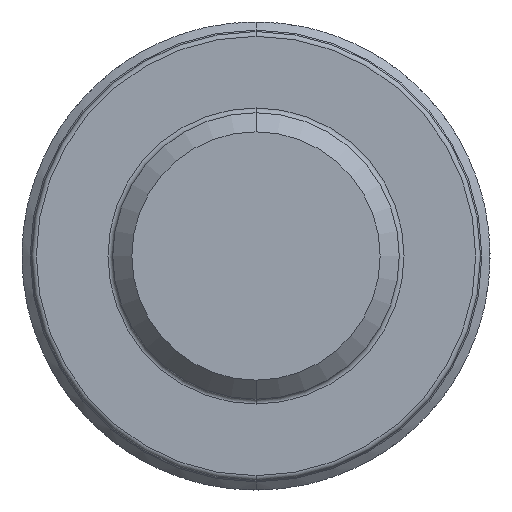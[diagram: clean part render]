
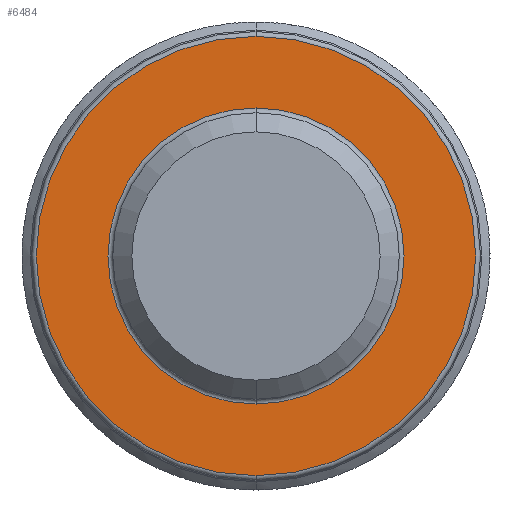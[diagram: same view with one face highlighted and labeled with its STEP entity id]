
A CAD part, front view. The second image highlights one B-rep face of the part: STEP entity #6484.
In plain terms, the highlighted planar face has unit normal (0, -1, 0).
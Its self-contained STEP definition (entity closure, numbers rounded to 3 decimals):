
#168 = CIRCLE ( 'NONE', #2323, 4.6 ) ;
#232 = EDGE_CURVE ( 'NONE', #4475, #3705, #168, .T. ) ;
#317 = EDGE_LOOP ( 'NONE', ( #2908, #7912 ) ) ;
#378 = DIRECTION ( 'NONE',  ( 0., 0., -1. ) ) ;
#424 = CARTESIAN_POINT ( 'NONE',  ( 0., -6., 0. ) ) ;
#598 = EDGE_CURVE ( 'NONE', #1108, #7880, #8364, .T. ) ;
#959 = EDGE_CURVE ( 'NONE', #3705, #4475, #7549, .T. ) ;
#1108 = VERTEX_POINT ( 'NONE', #7037 ) ;
#1237 = PLANE ( 'NONE',  #3856 ) ;
#1817 = CIRCLE ( 'NONE', #4935, 3.1 ) ;
#1866 = CARTESIAN_POINT ( 'NONE',  ( 0., -6., 4.6 ) ) ;
#2323 = AXIS2_PLACEMENT_3D ( 'NONE', #6139, #2932, #6810 ) ;
#2485 = DIRECTION ( 'NONE',  ( 0., 1., 0. ) ) ;
#2576 = AXIS2_PLACEMENT_3D ( 'NONE', #7595, #2485, #3720 ) ;
#2908 = ORIENTED_EDGE ( 'NONE', *, *, #5976, .T. ) ;
#2932 = DIRECTION ( 'NONE',  ( 0., -1., 0. ) ) ;
#3584 = DIRECTION ( 'NONE',  ( 0., -1., 0. ) ) ;
#3619 = CARTESIAN_POINT ( 'NONE',  ( 0., -6., 0. ) ) ;
#3652 = CARTESIAN_POINT ( 'NONE',  ( 3., -6., 0. ) ) ;
#3705 = VERTEX_POINT ( 'NONE', #1866 ) ;
#3720 = DIRECTION ( 'NONE',  ( 0., 0., -1. ) ) ;
#3814 = DIRECTION ( 'NONE',  ( 0., -1., 0. ) ) ;
#3856 = AXIS2_PLACEMENT_3D ( 'NONE', #3652, #3814, #7650 ) ;
#4475 = VERTEX_POINT ( 'NONE', #5832 ) ;
#4759 = DIRECTION ( 'NONE',  ( 0., 1., 0. ) ) ;
#4935 = AXIS2_PLACEMENT_3D ( 'NONE', #3619, #4759, #5523 ) ;
#5080 = FACE_OUTER_BOUND ( 'NONE', #5979, .T. ) ;
#5102 = ORIENTED_EDGE ( 'NONE', *, *, #232, .T. ) ;
#5523 = DIRECTION ( 'NONE',  ( 0., 0., -1. ) ) ;
#5832 = CARTESIAN_POINT ( 'NONE',  ( 0., -6., -4.6 ) ) ;
#5976 = EDGE_CURVE ( 'NONE', #7880, #1108, #1817, .T. ) ;
#5979 = EDGE_LOOP ( 'NONE', ( #5102, #6695 ) ) ;
#6139 = CARTESIAN_POINT ( 'NONE',  ( 0., -6., 0. ) ) ;
#6351 = FACE_BOUND ( 'NONE', #317, .T. ) ;
#6484 = ADVANCED_FACE ( 'NONE', ( #6351, #5080 ), #1237, .T. ) ;
#6695 = ORIENTED_EDGE ( 'NONE', *, *, #959, .T. ) ;
#6810 = DIRECTION ( 'NONE',  ( 0., 0., -1. ) ) ;
#7037 = CARTESIAN_POINT ( 'NONE',  ( 0., -6., 3.1 ) ) ;
#7169 = AXIS2_PLACEMENT_3D ( 'NONE', #424, #3584, #378 ) ;
#7234 = CARTESIAN_POINT ( 'NONE',  ( 0., -6., -3.1 ) ) ;
#7549 = CIRCLE ( 'NONE', #7169, 4.6 ) ;
#7595 = CARTESIAN_POINT ( 'NONE',  ( 0., -6., 0. ) ) ;
#7650 = DIRECTION ( 'NONE',  ( 0., 0., -1. ) ) ;
#7880 = VERTEX_POINT ( 'NONE', #7234 ) ;
#7912 = ORIENTED_EDGE ( 'NONE', *, *, #598, .T. ) ;
#8364 = CIRCLE ( 'NONE', #2576, 3.1 ) ;
